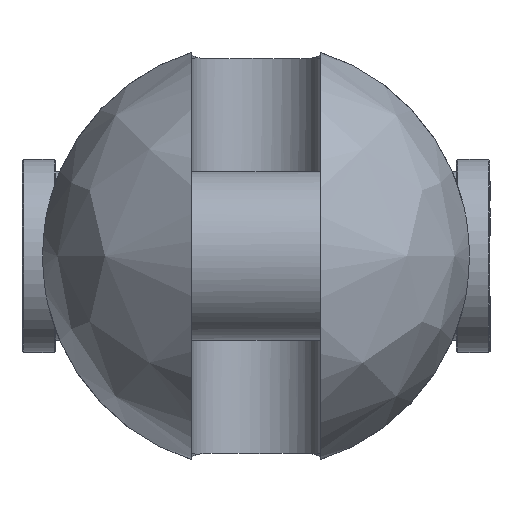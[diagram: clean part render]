
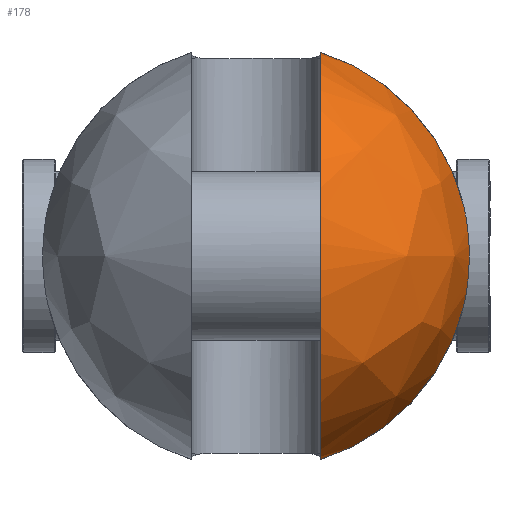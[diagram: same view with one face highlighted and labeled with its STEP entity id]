
A CAD part, left-side view. The second image highlights one B-rep face of the part: STEP entity #178.
In plain terms, the highlighted free-form (B-spline) face has degree [2, 2] with [9, 5] control points.
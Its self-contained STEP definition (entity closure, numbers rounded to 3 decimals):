
#178=ADVANCED_FACE('',(#318),#2404,.T.);
#318=FACE_OUTER_BOUND('',#478,.T.);
#478=EDGE_LOOP('',(#1187,#1188,#1189,#1190));
#1187=ORIENTED_EDGE('',*,*,#1570,.T.);
#1188=ORIENTED_EDGE('',*,*,#1594,.F.);
#1189=ORIENTED_EDGE('',*,*,#1606,.T.);
#1190=ORIENTED_EDGE('',*,*,#1586,.F.);
#1570=EDGE_CURVE('',#2237,#2236,#1972,.T.);
#1586=EDGE_CURVE('',#2237,#2249,#1982,.T.);
#1594=EDGE_CURVE('',#2256,#2236,#1983,.T.);
#1606=EDGE_CURVE('',#2256,#2249,#1779,.T.);
#1779=B_SPLINE_CURVE_WITH_KNOTS('',3,(#6114,#6115,#6116,#6117,#6118,#6119,
#6120,#6121,#6122,#6123,#6124,#6125,#6126,#6127),.UNSPECIFIED.,.F.,.F.,
(4,2,2,2,2,2,4),(0.,3.902,10.684,17.466,
24.247,31.029,34.931),.UNSPECIFIED.);
#1972=(
BOUNDED_CURVE()
B_SPLINE_CURVE(2,(#5882,#5883,#5884,#5885,#5886),.UNSPECIFIED.,.F.,.F.)
B_SPLINE_CURVE_WITH_KNOTS((3,2,3),(-208.135,-104.067,
0.),.UNSPECIFIED.)
CURVE()
GEOMETRIC_REPRESENTATION_ITEM()
RATIONAL_B_SPLINE_CURVE((1.,0.707,1.,0.707,1.))
REPRESENTATION_ITEM('')
);
#1982=(
BOUNDED_CURVE()
B_SPLINE_CURVE(2,(#5984,#5985,#5986),.UNSPECIFIED.,.F.,.F.)
B_SPLINE_CURVE_WITH_KNOTS((3,3),(0.,71.178),.UNSPECIFIED.)
CURVE()
GEOMETRIC_REPRESENTATION_ITEM()
RATIONAL_B_SPLINE_CURVE((1.,0.872,1.))
REPRESENTATION_ITEM('')
);
#1983=(
BOUNDED_CURVE()
B_SPLINE_CURVE(2,(#6041,#6042,#6043),.UNSPECIFIED.,.F.,.F.)
B_SPLINE_CURVE_WITH_KNOTS((3,3),(0.,71.178),.UNSPECIFIED.)
CURVE()
GEOMETRIC_REPRESENTATION_ITEM()
RATIONAL_B_SPLINE_CURVE((1.,0.872,1.))
REPRESENTATION_ITEM('')
);
#2236=VERTEX_POINT('',#5734);
#2237=VERTEX_POINT('',#5735);
#2249=VERTEX_POINT('',#5747);
#2256=VERTEX_POINT('',#5754);
#2404=(
BOUNDED_SURFACE()
B_SPLINE_SURFACE(2,2,((#5448,#5449,#5450,#5451,#5452),(#5453,#5454,#5455,
#5456,#5457),(#5458,#5459,#5460,#5461,#5462),(#5463,#5464,#5465,#5466,#5467),
(#5468,#5469,#5470,#5471,#5472),(#5473,#5474,#5475,#5476,#5477),(#5478,
#5479,#5480,#5481,#5482),(#5483,#5484,#5485,#5486,#5487),(#5488,#5489,#5490,
#5491,#5492)),.UNSPECIFIED.,.T.,.F.,.F.)
B_SPLINE_SURFACE_WITH_KNOTS((3,2,2,2,3),(3,2,3),(0.,109.17,218.341,
327.511,436.681),(0.,109.17,218.341),
 .UNSPECIFIED.)
GEOMETRIC_REPRESENTATION_ITEM()
RATIONAL_B_SPLINE_SURFACE(((1.,0.707,1.,0.707,1.),
(0.707,0.5,0.707,0.5,0.707),(1.,0.707,
1.,0.707,1.),(0.707,0.5,0.707,0.5,0.707),
(1.,0.707,1.,0.707,1.),(0.707,0.5,0.707,
0.5,0.707),(1.,0.707,1.,0.707,1.),(0.707,
0.5,0.707,0.5,0.707),(1.,0.707,1.,0.707,
1.)))
REPRESENTATION_ITEM('')
SURFACE()
);
#5448=CARTESIAN_POINT('',(-97.5,0.,0.));
#5449=CARTESIAN_POINT('',(-97.5,69.5,0.));
#5450=CARTESIAN_POINT('',(-28.,69.5,0.));
#5451=CARTESIAN_POINT('',(41.5,69.5,0.));
#5452=CARTESIAN_POINT('',(41.5,0.,0.));
#5453=CARTESIAN_POINT('',(-97.5,0.,0.));
#5454=CARTESIAN_POINT('',(-97.5,69.5,69.5));
#5455=CARTESIAN_POINT('',(-28.,69.5,69.5));
#5456=CARTESIAN_POINT('',(41.5,69.5,69.5));
#5457=CARTESIAN_POINT('',(41.5,0.,0.));
#5458=CARTESIAN_POINT('',(-97.5,0.,0.));
#5459=CARTESIAN_POINT('',(-97.5,0.,69.5));
#5460=CARTESIAN_POINT('',(-28.,0.,69.5));
#5461=CARTESIAN_POINT('',(41.5,0.,69.5));
#5462=CARTESIAN_POINT('',(41.5,0.,0.));
#5463=CARTESIAN_POINT('',(-97.5,0.,0.));
#5464=CARTESIAN_POINT('',(-97.5,-69.5,69.5));
#5465=CARTESIAN_POINT('',(-28.,-69.5,69.5));
#5466=CARTESIAN_POINT('',(41.5,-69.5,69.5));
#5467=CARTESIAN_POINT('',(41.5,0.,0.));
#5468=CARTESIAN_POINT('',(-97.5,0.,0.));
#5469=CARTESIAN_POINT('',(-97.5,-69.5,0.));
#5470=CARTESIAN_POINT('',(-28.,-69.5,0.));
#5471=CARTESIAN_POINT('',(41.5,-69.5,0.));
#5472=CARTESIAN_POINT('',(41.5,0.,0.));
#5473=CARTESIAN_POINT('',(-97.5,0.,0.));
#5474=CARTESIAN_POINT('',(-97.5,-69.5,-69.5));
#5475=CARTESIAN_POINT('',(-28.,-69.5,-69.5));
#5476=CARTESIAN_POINT('',(41.5,-69.5,-69.5));
#5477=CARTESIAN_POINT('',(41.5,0.,0.));
#5478=CARTESIAN_POINT('',(-97.5,0.,0.));
#5479=CARTESIAN_POINT('',(-97.5,0.,-69.5));
#5480=CARTESIAN_POINT('',(-28.,0.,-69.5));
#5481=CARTESIAN_POINT('',(41.5,0.,-69.5));
#5482=CARTESIAN_POINT('',(41.5,0.,0.));
#5483=CARTESIAN_POINT('',(-97.5,0.,0.));
#5484=CARTESIAN_POINT('',(-97.5,69.5,-69.5));
#5485=CARTESIAN_POINT('',(-28.,69.5,-69.5));
#5486=CARTESIAN_POINT('',(41.5,69.5,-69.5));
#5487=CARTESIAN_POINT('',(41.5,0.,0.));
#5488=CARTESIAN_POINT('',(-97.5,0.,0.));
#5489=CARTESIAN_POINT('',(-97.5,69.5,0.));
#5490=CARTESIAN_POINT('',(-28.,69.5,0.));
#5491=CARTESIAN_POINT('',(41.5,69.5,0.));
#5492=CARTESIAN_POINT('',(41.5,0.,0.));
#5734=CARTESIAN_POINT('',(-28.,-21.,-66.251));
#5735=CARTESIAN_POINT('',(-28.,-21.,66.251));
#5747=CARTESIAN_POINT('',(-28.,-67.513,16.5));
#5754=CARTESIAN_POINT('',(-28.,-67.513,-16.5));
#5882=CARTESIAN_POINT('',(-28.,-21.,66.251));
#5883=CARTESIAN_POINT('',(-94.251,-21.,66.251));
#5884=CARTESIAN_POINT('',(-94.251,-21.,0.));
#5885=CARTESIAN_POINT('',(-94.251,-21.,-66.251));
#5886=CARTESIAN_POINT('',(-28.,-21.,-66.251));
#5984=CARTESIAN_POINT('',(-28.,-21.,66.251));
#5985=CARTESIAN_POINT('',(-28.,-58.239,54.448));
#5986=CARTESIAN_POINT('',(-28.,-67.513,16.5));
#6041=CARTESIAN_POINT('',(-28.,-67.513,-16.5));
#6042=CARTESIAN_POINT('',(-28.,-58.239,-54.448));
#6043=CARTESIAN_POINT('',(-28.,-21.,-66.251));
#6114=CARTESIAN_POINT('',(-28.,-67.513,-16.5));
#6115=CARTESIAN_POINT('',(-28.653,-67.784,-15.393));
#6116=CARTESIAN_POINT('',(-29.244,-68.027,-14.238));
#6117=CARTESIAN_POINT('',(-30.671,-68.613,-10.982));
#6118=CARTESIAN_POINT('',(-31.365,-68.895,-8.807));
#6119=CARTESIAN_POINT('',(-32.279,-69.265,-4.4));
#6120=CARTESIAN_POINT('',(-32.5,-69.354,-2.169));
#6121=CARTESIAN_POINT('',(-32.5,-69.354,2.169));
#6122=CARTESIAN_POINT('',(-32.279,-69.265,4.4));
#6123=CARTESIAN_POINT('',(-31.365,-68.895,8.807));
#6124=CARTESIAN_POINT('',(-30.671,-68.613,10.982));
#6125=CARTESIAN_POINT('',(-29.244,-68.027,14.238));
#6126=CARTESIAN_POINT('',(-28.653,-67.784,15.393));
#6127=CARTESIAN_POINT('',(-28.,-67.513,16.5));
